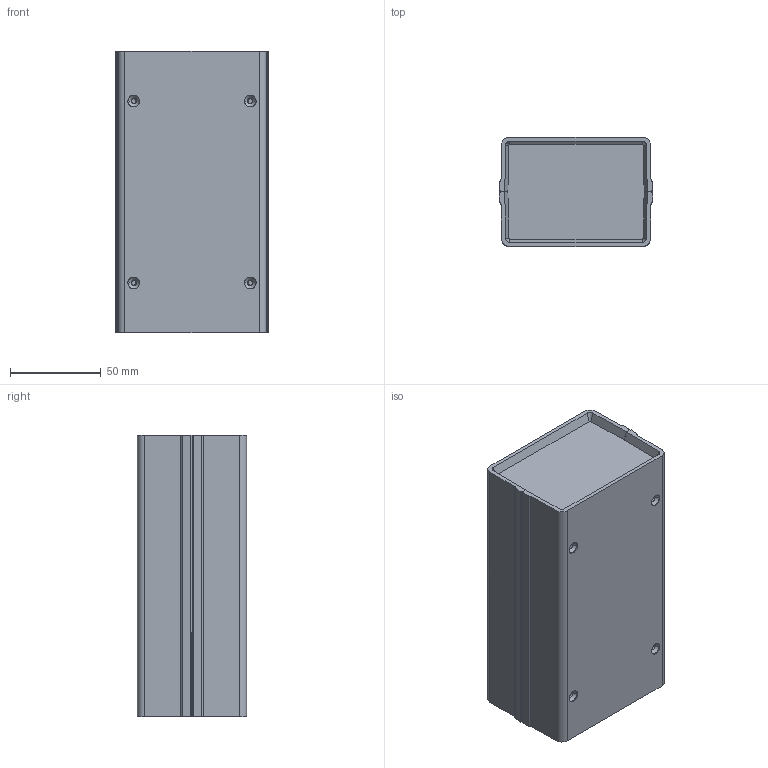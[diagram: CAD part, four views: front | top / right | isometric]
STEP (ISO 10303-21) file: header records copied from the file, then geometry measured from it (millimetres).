
FILE_DESCRIPTION (( 'STEP AP203' ), '1' );
FILE_NAME ('PH8282.STEP', '2019-04-13T11:27:30', ( '' ), ( '' ), 'SwSTEP 2.0', 'SolidWorks 2018', '' );
FILE_SCHEMA (( 'CONFIG_CONTROL_DESIGN' ));
Length unit declared in the file: millimetre
Products named in the file (4): PH8282
Assembly tree (4 placements, depth 2):
  PH8282
    PH8282
    PH8282
    PH8282  x2
Bounding box: 84.44 x 60 x 155 mm (x, y, z)
Volume: 158895.2 mm3; surface area: 119587.5 mm2
Topology: 4 solids, 4 shells, 410 faces, 1082 edges, 716 vertices
Faces by surface type: plane 224, cone 74, cylinder 64, bspline 48
Entity records: 12886 total; most frequent: CARTESIAN_POINT 2626, ORIENTED_EDGE 2068, DIRECTION 2038, EDGE_CURVE 1034, VECTOR 694, LINE 694, VERTEX_POINT 684, AXIS2_PLACEMENT_3D 672
